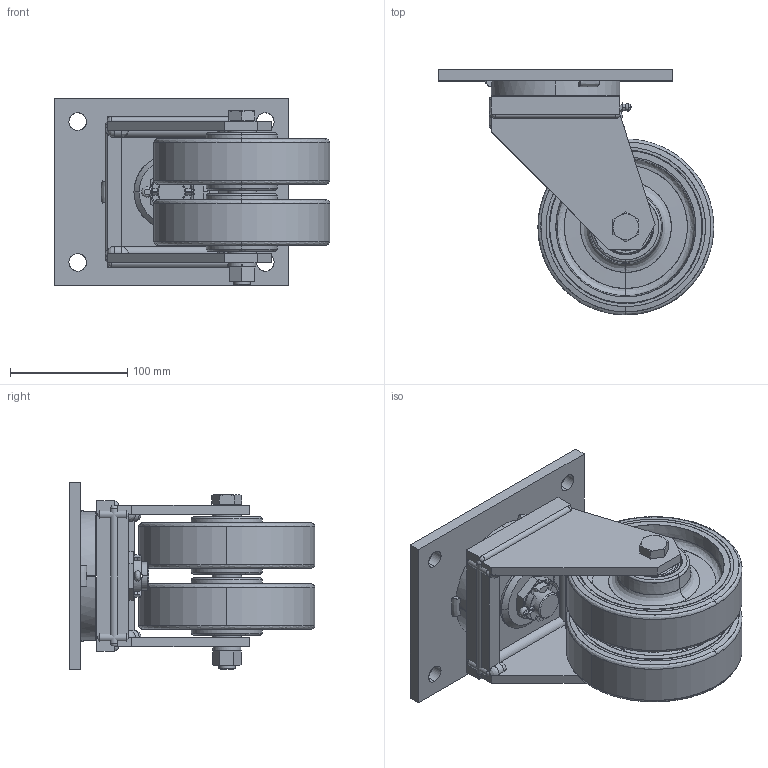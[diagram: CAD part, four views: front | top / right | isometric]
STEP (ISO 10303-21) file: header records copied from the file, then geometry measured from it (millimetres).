
FILE_DESCRIPTION(('STEP AP203'),'2;1');
FILE_NAME('7472_CL.stp','2010-05-03T12:24:44',(''),(''),'2009.1.108','THINKDESIGN','');
FILE_SCHEMA(('CONFIG_CONTROL_DESIGN'));
Bounding box: 235 x 209.5 x 160 mm (x, y, z)
Volume: 45888.8 mm3; surface area: 349513.6 mm2
Topology: 7 solids, 7 shells, 491 faces, 2114 edges, 2043 vertices
Faces by surface type: bspline 232, plane 139, cylinder 120
Full cylindrical faces by diameter (mm): 11.834 x1, 14 x1, 14.5 x2, 15 x1, 19.37 x1, 20 x1, 21 x3, 25 x3
Entity records: 48455 total; most frequent: CARTESIAN_POINT 38684, COMPOSITE_CURVE_SEGMENT 1945, DIRECTION 1716, B_SPLINE_CURVE_WITH_KNOTS 979, TRIMMED_CURVE 772, VECTOR 576, LINE 576, AXIS2_PLACEMENT_3D 570
